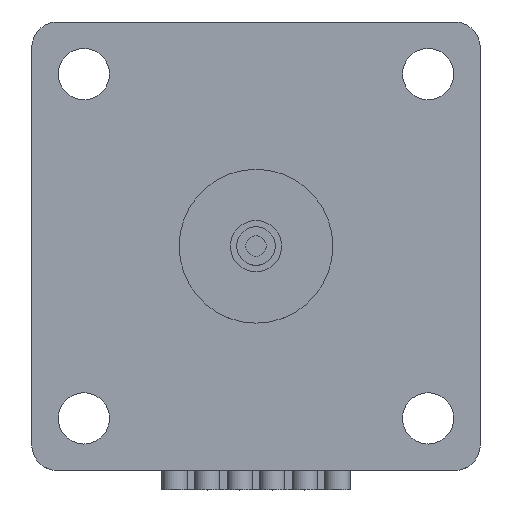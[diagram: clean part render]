
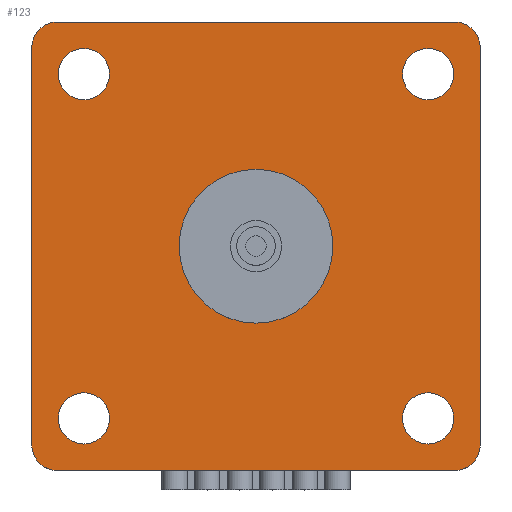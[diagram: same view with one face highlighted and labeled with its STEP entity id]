
A CAD part, top view. The second image highlights one B-rep face of the part: STEP entity #123.
In plain terms, the highlighted planar face has unit normal (0, 0, 1).
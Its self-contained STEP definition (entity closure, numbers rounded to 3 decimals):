
#37=PLANE('',#974);
#68=FACE_BOUND('',#241,.T.);
#69=FACE_BOUND('',#242,.T.);
#70=FACE_BOUND('',#243,.T.);
#71=FACE_BOUND('',#244,.T.);
#72=FACE_BOUND('',#245,.T.);
#73=FACE_BOUND('',#246,.T.);
#123=ADVANCED_FACE('',(#68,#69,#70,#71,#72,#73),#37,.T.);
#241=EDGE_LOOP('',(#433));
#242=EDGE_LOOP('',(#434));
#243=EDGE_LOOP('',(#435));
#244=EDGE_LOOP('',(#436));
#245=EDGE_LOOP('',(#437));
#246=EDGE_LOOP('',(#438,#439,#440,#441,#442,#443,#444,#445));
#330=CIRCLE('',#965,1.);
#331=CIRCLE('',#966,1.);
#332=CIRCLE('',#967,1.);
#333=CIRCLE('',#968,1.);
#334=CIRCLE('',#969,3.);
#335=CIRCLE('',#970,1.);
#336=CIRCLE('',#971,1.);
#337=CIRCLE('',#972,1.);
#338=CIRCLE('',#973,1.);
#433=ORIENTED_EDGE('',*,*,#743,.T.);
#434=ORIENTED_EDGE('',*,*,#744,.T.);
#435=ORIENTED_EDGE('',*,*,#745,.T.);
#436=ORIENTED_EDGE('',*,*,#746,.T.);
#437=ORIENTED_EDGE('',*,*,#747,.F.);
#438=ORIENTED_EDGE('',*,*,#748,.T.);
#439=ORIENTED_EDGE('',*,*,#749,.T.);
#440=ORIENTED_EDGE('',*,*,#750,.T.);
#441=ORIENTED_EDGE('',*,*,#751,.T.);
#442=ORIENTED_EDGE('',*,*,#752,.T.);
#443=ORIENTED_EDGE('',*,*,#753,.T.);
#444=ORIENTED_EDGE('',*,*,#754,.T.);
#445=ORIENTED_EDGE('',*,*,#755,.T.);
#646=VERTEX_POINT('',#1442);
#647=VERTEX_POINT('',#1444);
#648=VERTEX_POINT('',#1446);
#649=VERTEX_POINT('',#1448);
#650=VERTEX_POINT('',#1450);
#651=VERTEX_POINT('',#1452);
#652=VERTEX_POINT('',#1453);
#653=VERTEX_POINT('',#1455);
#654=VERTEX_POINT('',#1457);
#655=VERTEX_POINT('',#1459);
#656=VERTEX_POINT('',#1461);
#657=VERTEX_POINT('',#1463);
#658=VERTEX_POINT('',#1465);
#743=EDGE_CURVE('',#646,#646,#330,.T.);
#744=EDGE_CURVE('',#647,#647,#331,.T.);
#745=EDGE_CURVE('',#648,#648,#332,.T.);
#746=EDGE_CURVE('',#649,#649,#333,.T.);
#747=EDGE_CURVE('',#650,#650,#334,.T.);
#748=EDGE_CURVE('',#651,#652,#838,.T.);
#749=EDGE_CURVE('',#652,#653,#335,.T.);
#750=EDGE_CURVE('',#653,#654,#839,.T.);
#751=EDGE_CURVE('',#654,#655,#336,.T.);
#752=EDGE_CURVE('',#655,#656,#840,.T.);
#753=EDGE_CURVE('',#656,#657,#337,.T.);
#754=EDGE_CURVE('',#657,#658,#841,.T.);
#755=EDGE_CURVE('',#658,#651,#338,.T.);
#838=LINE('',#1451,#902);
#839=LINE('',#1456,#903);
#840=LINE('',#1460,#904);
#841=LINE('',#1464,#905);
#902=VECTOR('',#1158,1.);
#903=VECTOR('',#1161,1.);
#904=VECTOR('',#1164,1.);
#905=VECTOR('',#1167,1.);
#965=AXIS2_PLACEMENT_3D('',#1441,#1148,#1149);
#966=AXIS2_PLACEMENT_3D('',#1443,#1150,#1151);
#967=AXIS2_PLACEMENT_3D('',#1445,#1152,#1153);
#968=AXIS2_PLACEMENT_3D('',#1447,#1154,#1155);
#969=AXIS2_PLACEMENT_3D('',#1449,#1156,#1157);
#970=AXIS2_PLACEMENT_3D('',#1454,#1159,#1160);
#971=AXIS2_PLACEMENT_3D('',#1458,#1162,#1163);
#972=AXIS2_PLACEMENT_3D('',#1462,#1165,#1166);
#973=AXIS2_PLACEMENT_3D('',#1466,#1168,#1169);
#974=AXIS2_PLACEMENT_3D('',#1467,#1170,#1171);
#1148=DIRECTION('',(0.,0.,-1.));
#1149=DIRECTION('',(-1.,0.,0.));
#1150=DIRECTION('',(0.,0.,-1.));
#1151=DIRECTION('',(-1.,0.,0.));
#1152=DIRECTION('',(0.,0.,-1.));
#1153=DIRECTION('',(-1.,0.,0.));
#1154=DIRECTION('',(0.,0.,-1.));
#1155=DIRECTION('',(-1.,0.,0.));
#1156=DIRECTION('',(0.,0.,1.));
#1157=DIRECTION('',(1.,0.,0.));
#1158=DIRECTION('',(0.,1.,0.));
#1159=DIRECTION('',(0.,0.,1.));
#1160=DIRECTION('',(1.,0.,0.));
#1161=DIRECTION('',(-1.,0.,0.));
#1162=DIRECTION('',(0.,0.,1.));
#1163=DIRECTION('',(1.,0.,0.));
#1164=DIRECTION('',(0.,-1.,0.));
#1165=DIRECTION('',(0.,0.,1.));
#1166=DIRECTION('',(1.,0.,0.));
#1167=DIRECTION('',(1.,0.,0.));
#1168=DIRECTION('',(0.,0.,1.));
#1169=DIRECTION('',(1.,0.,0.));
#1170=DIRECTION('',(0.,0.,1.));
#1171=DIRECTION('',(1.,0.,0.));
#1441=CARTESIAN_POINT('',(6.718,6.718,0.));
#1442=CARTESIAN_POINT('',(5.718,6.718,0.));
#1443=CARTESIAN_POINT('',(6.718,-6.718,0.));
#1444=CARTESIAN_POINT('',(5.718,-6.718,0.));
#1445=CARTESIAN_POINT('',(-6.718,-6.718,0.));
#1446=CARTESIAN_POINT('',(-7.718,-6.718,0.));
#1447=CARTESIAN_POINT('',(-6.718,6.718,0.));
#1448=CARTESIAN_POINT('',(-7.718,6.718,0.));
#1449=CARTESIAN_POINT('',(0.,0.,0.));
#1450=CARTESIAN_POINT('',(3.,0.,0.));
#1451=CARTESIAN_POINT('',(8.75,-8.75,0.));
#1452=CARTESIAN_POINT('',(8.75,-7.75,0.));
#1453=CARTESIAN_POINT('',(8.75,7.75,0.));
#1454=CARTESIAN_POINT('',(7.75,7.75,0.));
#1455=CARTESIAN_POINT('',(7.75,8.75,0.));
#1456=CARTESIAN_POINT('',(8.75,8.75,0.));
#1457=CARTESIAN_POINT('',(-7.75,8.75,0.));
#1458=CARTESIAN_POINT('',(-7.75,7.75,0.));
#1459=CARTESIAN_POINT('',(-8.75,7.75,0.));
#1460=CARTESIAN_POINT('',(-8.75,8.75,0.));
#1461=CARTESIAN_POINT('',(-8.75,-7.75,0.));
#1462=CARTESIAN_POINT('',(-7.75,-7.75,0.));
#1463=CARTESIAN_POINT('',(-7.75,-8.75,0.));
#1464=CARTESIAN_POINT('',(-8.75,-8.75,0.));
#1465=CARTESIAN_POINT('',(7.75,-8.75,0.));
#1466=CARTESIAN_POINT('',(7.75,-7.75,0.));
#1467=CARTESIAN_POINT('',(0.,0.,0.));
